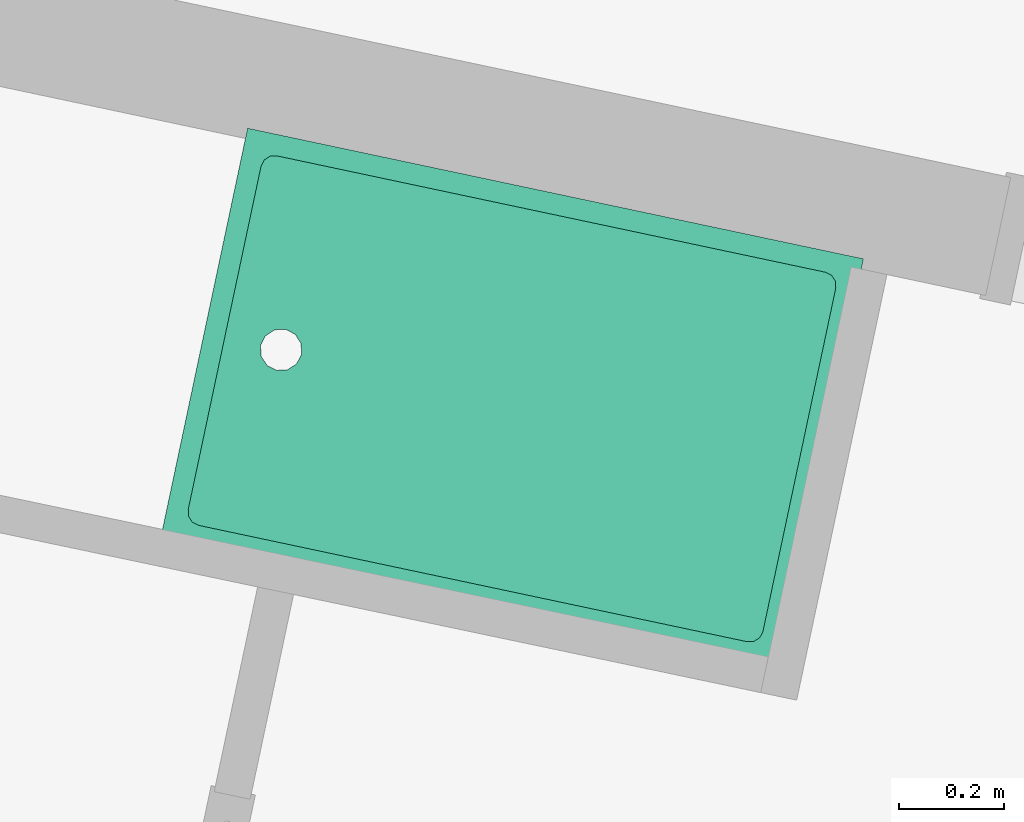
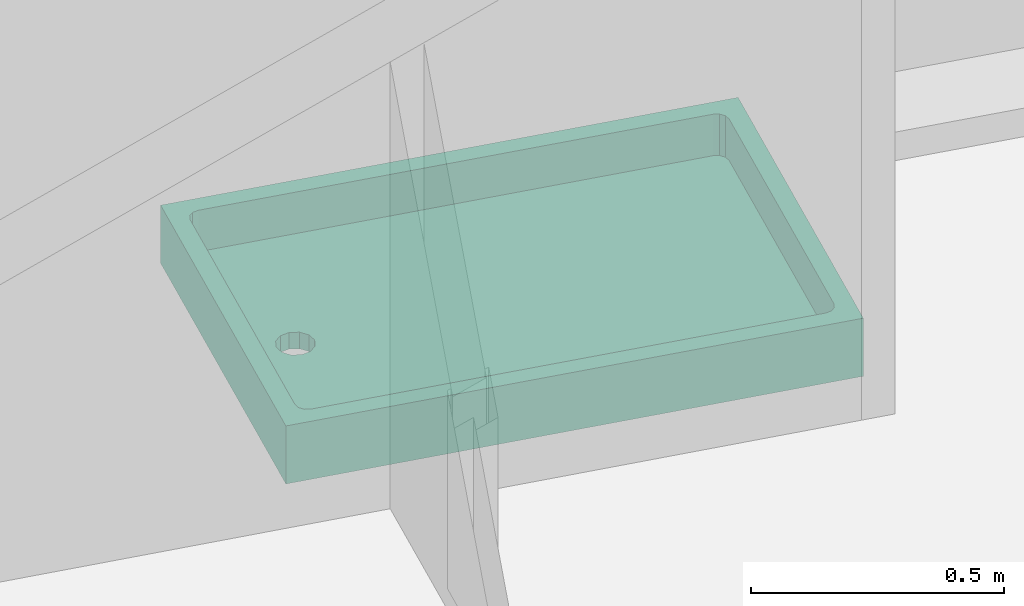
# One storey, part 18 of 20: 1 flow terminal.
"""IFC2X3 building model written with IfcOpenShell, lengths in metres."""

from ifc_helpers import new_model, entity, si_unit, converted_unit, derived_unit, direction, frame, origin, place, context, subcontext, project, spatial, faceted_brep, source, transform, mapped, material, element, save


model = new_model("IFC2X3")

# Units and contexts
model_context = context("Model", 3, precision=1e-05, world=origin(), true_north=direction((6.12303176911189e-17, 1.0)))
body_context = subcontext(model_context, "Body", "Model", "MODEL_VIEW")
ifc_project = project(units=[si_unit("LENGTHUNIT", "METRE"), si_unit("AREAUNIT", "SQUARE_METRE"), si_unit("VOLUMEUNIT", "CUBIC_METRE"), converted_unit("PLANEANGLEUNIT", "DEGREE", entity("IfcRatioMeasure", 0.0174532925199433), si_unit("PLANEANGLEUNIT", "RADIAN"), dimensions=[0, 0, 0, 0, 0, 0, 0]), si_unit("MASSUNIT", "GRAM", prefix="KILO"), derived_unit("MASSDENSITYUNIT", [(si_unit("MASSUNIT", "GRAM", prefix="KILO"), 1), (si_unit("LENGTHUNIT", "METRE"), -3)]), si_unit("TIMEUNIT", "SECOND"), si_unit("FREQUENCYUNIT", "HERTZ"), si_unit("THERMODYNAMICTEMPERATUREUNIT", "DEGREE_CELSIUS"), derived_unit("THERMALTRANSMITTANCEUNIT", [(si_unit("MASSUNIT", "GRAM", prefix="KILO"), 1), (si_unit("THERMODYNAMICTEMPERATUREUNIT", "KELVIN"), -1), (si_unit("TIMEUNIT", "SECOND"), -3)]), derived_unit("VOLUMETRICFLOWRATEUNIT", [(si_unit("LENGTHUNIT", "METRE"), 3), (si_unit("TIMEUNIT", "SECOND"), -1)]), si_unit("ELECTRICCURRENTUNIT", "AMPERE"), si_unit("ELECTRICVOLTAGEUNIT", "VOLT"), si_unit("POWERUNIT", "WATT"), si_unit("FORCEUNIT", "NEWTON", prefix="KILO"), si_unit("ILLUMINANCEUNIT", "LUX"), si_unit("LUMINOUSFLUXUNIT", "LUMEN"), si_unit("LUMINOUSINTENSITYUNIT", "CANDELA"), derived_unit("USERDEFINED", [(si_unit("MASSUNIT", "GRAM", prefix="KILO"), -1), (si_unit("LENGTHUNIT", "METRE"), -2), (si_unit("TIMEUNIT", "SECOND"), 3), (si_unit("LUMINOUSFLUXUNIT", "LUMEN"), 1)]), derived_unit("LINEARVELOCITYUNIT", [(si_unit("LENGTHUNIT", "METRE"), 1), (si_unit("TIMEUNIT", "SECOND"), -1)]), si_unit("PRESSUREUNIT", "PASCAL"), derived_unit("USERDEFINED", [(si_unit("LENGTHUNIT", "METRE"), -2), (si_unit("MASSUNIT", "GRAM", prefix="KILO"), 1), (si_unit("TIMEUNIT", "SECOND"), -2)])], contexts=[model_context])

# Site, building, storey, space
site_placement = place(None, origin())
site = spatial("IfcSite", under=ifc_project, at=site_placement, Name="Default", CompositionType="ELEMENT")
building_placement = place(site_placement, origin())
building = spatial("IfcBuilding", under=site, at=building_placement, CompositionType="ELEMENT")
storey_placement = place(building_placement, frame((0.0, 0.0, -0.0686871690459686)))
storey = spatial("IfcBuildingStorey", under=building, at=storey_placement, Name="RDC", CompositionType="ELEMENT", Elevation=-0.0686871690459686)
space_placement = place(storey_placement, origin())
space = spatial("IfcSpace", under=storey, at=space_placement, Name="629", CompositionType="ELEMENT", InteriorOrExteriorSpace="INTERNAL")

# Flow terminal
ifc_material = material(Name="Blanc - Element de salle de bains")
shared_shape = source(origin(), body_context, "Body", "Brep", [
    faceted_brep([(0.360000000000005, 0.534599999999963, 0.139999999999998), (0.360000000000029, -0.53460000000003, 0.139999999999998), (0.4, -0.600000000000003, 0.139999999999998), (0.4, 0.599999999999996, 0.139999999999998), (0.358003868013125, 0.542049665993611, 0.139999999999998), (0.358298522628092, -0.54095000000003, 0.139999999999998), (0.356597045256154, -0.54730000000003, 0.139999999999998), (0.351948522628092, -0.551948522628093, 0.139999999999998), (0.347300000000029, -0.556597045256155, 0.139999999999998), (0.342049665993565, -0.558003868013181, 0.139999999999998), (0.33460000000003, -0.56000000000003, 0.139999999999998), (-0.334600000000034, -0.56000000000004, 0.139999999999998), (-0.4, -0.600000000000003, 0.139999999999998), (-0.340950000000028, -0.558298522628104, 0.139999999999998), (-0.347300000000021, -0.556597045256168, 0.139999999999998), (-0.351948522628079, -0.55194852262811, 0.139999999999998), (-0.356597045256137, -0.547300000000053, 0.139999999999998), (-0.358003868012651, -0.542049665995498, 0.139999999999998), (-0.360000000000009, -0.534600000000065, 0.139999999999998), (-0.359999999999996, 0.534599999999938, 0.139999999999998), (-0.4, 0.599999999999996, 0.139999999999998), (-0.358298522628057, 0.540949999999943, 0.139999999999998), (-0.356597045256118, 0.547299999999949, 0.139999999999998), (-0.351948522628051, 0.551948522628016, 0.139999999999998), (-0.347299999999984, 0.556597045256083, 0.139999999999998), (-0.342049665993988, 0.558003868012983, 0.139999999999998), (-0.334599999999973, 0.559999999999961, 0.139999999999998), (0.334600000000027, 0.55999999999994, 0.139999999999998), (0.340950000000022, 0.558298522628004, 0.139999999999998), (0.347300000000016, 0.556597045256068, 0.139999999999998), (0.351948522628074, 0.55194852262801, 0.139999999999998), (0.356597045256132, 0.547299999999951, 0.139999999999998), (-0.4, 0.599999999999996, 0.0), (-0.0346410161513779, 0.429999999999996, 0.0), (-0.4, -0.600000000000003, 0.0), (-0.0373205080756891, 0.439999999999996, 0.0), (-0.0400000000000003, 0.449999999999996, 0.0), (-0.0373205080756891, 0.459999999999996, 0.0), (-0.0346410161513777, 0.469999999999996, 0.0), (-0.027320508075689, 0.477320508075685, 0.0), (-0.0200000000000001, 0.484641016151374, 0.0), (-0.0100000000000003, 0.487320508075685, 0.0), (0.0, 0.489999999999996, 0.0), (0.4, 0.599999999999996, 0.0), (0.00999999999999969, 0.487320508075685, 0.0), (0.0199999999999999, 0.484641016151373, 0.0), (0.0273205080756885, 0.477320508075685, 0.0), (0.0346410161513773, 0.469999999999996, 0.0), (0.0373205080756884, 0.459999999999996, 0.0), (0.0399999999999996, 0.449999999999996, 0.0), (0.0373205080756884, 0.439999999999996, 0.0), (0.0346410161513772, 0.429999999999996, 0.0), (0.4, -0.600000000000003, 0.0), (0.0, 0.409999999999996, 0.0), (0.00999999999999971, 0.412679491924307, 0.0), (0.0273205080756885, 0.422679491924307, 0.0), (0.0199999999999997, 0.415358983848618, 0.0), (-0.0273205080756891, 0.422679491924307, 0.0), (-0.0200000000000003, 0.415358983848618, 0.0), (-0.0100000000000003, 0.412679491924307, 0.0), (0.356597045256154, -0.54730000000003, 0.0399999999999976), (0.33460000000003, -0.56000000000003, 0.0399999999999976), (0.34095000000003, -0.558298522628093, 0.0399999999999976), (0.358003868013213, -0.542049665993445, 0.0399999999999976), (0.351948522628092, -0.551948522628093, 0.0399999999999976), (0.36000000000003, -0.534600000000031, 0.0399999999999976), (-0.334600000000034, -0.56000000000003, 0.0399999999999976), (-0.360000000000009, -0.534600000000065, 0.0399999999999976), (0.0, 0.409999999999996, 0.0399999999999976), (0.00999999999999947, 0.412679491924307, 0.0399999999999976), (0.0199999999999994, 0.415358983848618, 0.0399999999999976), (0.360000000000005, 0.534599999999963, 0.0399999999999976), (0.0273205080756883, 0.422679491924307, 0.0399999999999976), (0.0346410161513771, 0.429999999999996, 0.0399999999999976), (0.0375344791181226, 0.440798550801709, 0.0399999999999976), (0.0399999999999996, 0.449999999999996, 0.0399999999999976), (0.334600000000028, 0.559999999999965, 0.0399999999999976), (0.358298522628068, 0.540949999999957, 0.0399999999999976), (0.356597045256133, 0.547299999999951, 0.0399999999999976), (0.342049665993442, 0.558003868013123, 0.0399999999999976), (0.351948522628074, 0.551948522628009, 0.0399999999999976), (0.347300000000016, 0.556597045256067, 0.0399999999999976), (0.0375344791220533, 0.459201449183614, 0.0399999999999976), (0.0346410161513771, 0.469999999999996, 0.0399999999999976), (0.0273205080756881, 0.477320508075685, 0.0399999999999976), (0.0199999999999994, 0.484641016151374, 0.0399999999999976), (0.00999999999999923, 0.487320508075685, 0.0399999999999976), (0.0, 0.489999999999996, 0.0399999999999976), (-0.334599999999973, 0.559999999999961, 0.0399999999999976), (-0.0100000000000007, 0.487320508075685, 0.0399999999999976), (-0.0200000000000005, 0.484641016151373, 0.0399999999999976), (-0.0273205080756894, 0.477320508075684, 0.0399999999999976), (-0.034641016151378, 0.469999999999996, 0.0399999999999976), (-0.0375344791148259, 0.459201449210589, 0.0399999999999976), (-0.0400000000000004, 0.449999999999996, 0.0399999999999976), (-0.359999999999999, 0.534599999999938, 0.0399999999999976), (-0.358003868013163, 0.542049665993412, 0.0399999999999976), (-0.356597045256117, 0.547299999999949, 0.0399999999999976), (-0.340949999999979, 0.558298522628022, 0.0399999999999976), (-0.351948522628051, 0.551948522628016, 0.0399999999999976), (-0.347299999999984, 0.556597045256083, 0.0399999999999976), (-0.0200000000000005, 0.415358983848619, 0.0399999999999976), (-0.0273205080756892, 0.422679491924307, 0.0399999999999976), (-0.034641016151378, 0.429999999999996, 0.0399999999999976), (-0.0375344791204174, 0.44079855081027, 0.0399999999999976), (-0.0100000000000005, 0.412679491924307, 0.0399999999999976), (-0.358298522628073, -0.540950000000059, 0.0399999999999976), (-0.356597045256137, -0.547300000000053, 0.0399999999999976), (-0.351948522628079, -0.55194852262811, 0.0399999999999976), (-0.342049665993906, -0.5580038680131, 0.0399999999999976), (-0.347300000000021, -0.556597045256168, 0.0399999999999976), (0.34730000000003, -0.556597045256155, 0.0399999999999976)], [[[0, 1, 2]], [[2, 3, 0]], [[3, 4, 0]], [[2, 1, 5]], [[2, 5, 6]], [[2, 6, 7]], [[2, 7, 8]], [[2, 8, 9]], [[2, 9, 10]], [[10, 11, 2]], [[12, 2, 11]], [[12, 11, 13]], [[12, 13, 14]], [[12, 14, 15]], [[12, 15, 16]], [[12, 16, 17]], [[12, 17, 18]], [[19, 12, 18]], [[12, 19, 20]], [[20, 19, 21]], [[20, 21, 22]], [[20, 22, 23]], [[20, 23, 24]], [[20, 24, 25]], [[20, 25, 26]], [[26, 27, 3]], [[3, 20, 26]], [[3, 27, 28]], [[3, 28, 29]], [[3, 29, 30]], [[3, 30, 31]], [[3, 31, 4]], [[32, 33, 34]], [[32, 35, 33]], [[32, 36, 35]], [[32, 37, 36]], [[32, 38, 37]], [[32, 39, 38]], [[32, 40, 39]], [[32, 41, 40]], [[32, 42, 41]], [[32, 43, 42]], [[43, 44, 42]], [[43, 45, 44]], [[43, 46, 45]], [[43, 47, 46]], [[43, 48, 47]], [[43, 49, 48]], [[43, 50, 49]], [[43, 51, 50]], [[52, 51, 43]], [[53, 52, 34]], [[52, 53, 54]], [[52, 55, 51]], [[52, 56, 55]], [[52, 54, 56]], [[34, 33, 57]], [[34, 57, 58]], [[34, 58, 59]], [[34, 59, 53]], [[52, 2, 12, 34]], [[34, 12, 20, 32]], [[32, 20, 3, 43]], [[43, 3, 2, 52]], [[60, 61, 62]], [[61, 60, 63]], [[62, 64, 60]], [[61, 63, 65]], [[61, 65, 66]], [[67, 66, 65]], [[65, 68, 67]], [[65, 69, 68]], [[65, 70, 69]], [[65, 71, 70]], [[71, 72, 70]], [[71, 73, 72]], [[71, 74, 73]], [[71, 75, 74]], [[75, 71, 76]], [[76, 71, 77]], [[76, 77, 78]], [[78, 79, 76]], [[79, 78, 80]], [[79, 80, 81]], [[76, 82, 75]], [[76, 83, 82]], [[76, 84, 83]], [[76, 85, 84]], [[76, 86, 85]], [[76, 87, 86]], [[87, 76, 88]], [[88, 89, 87]], [[88, 90, 89]], [[88, 91, 90]], [[88, 92, 91]], [[88, 93, 92]], [[88, 94, 93]], [[88, 95, 94]], [[88, 96, 95]], [[88, 97, 96]], [[97, 88, 98]], [[98, 99, 97]], [[98, 100, 99]], [[101, 95, 67]], [[95, 101, 102]], [[95, 102, 103]], [[95, 103, 104]], [[95, 104, 94]], [[67, 68, 105]], [[67, 105, 101]], [[66, 67, 106]], [[66, 106, 107]], [[66, 107, 108]], [[108, 109, 66]], [[108, 110, 109]], [[62, 111, 64]], [[29, 28, 27, 76, 79, 81]], [[30, 29, 81, 80, 78, 31]], [[77, 71, 0, 4, 31, 78]], [[1, 0, 71, 65]], [[6, 5, 1, 65, 63, 60]], [[7, 6, 60, 64, 111, 8]], [[62, 61, 10, 9, 8, 111]], [[11, 10, 61, 66]], [[14, 13, 11, 66, 109, 110]], [[15, 14, 110, 108, 107, 16]], [[106, 67, 18, 17, 16, 107]], [[19, 18, 67, 95]], [[22, 21, 19, 95, 96, 97]], [[23, 22, 97, 99, 100, 24]], [[98, 88, 26, 25, 24, 100]], [[27, 26, 88, 76]], [[92, 93, 94, 36, 37, 38]], [[85, 45, 46, 47, 83, 84]], [[39, 40, 90, 91, 92, 38]], [[90, 40, 41, 42, 87, 89]], [[83, 47, 48, 49, 75, 82]], [[86, 87, 42, 44, 45, 85]], [[73, 74, 75, 49, 50, 51]], [[101, 58, 57, 33, 103, 102]], [[55, 56, 70, 72, 73, 51]], [[69, 70, 56, 54, 53, 68]], [[103, 33, 35, 36, 94, 104]], [[105, 68, 53, 59, 58, 101]]]),
])
flow_terminal_placement = place(space_placement, frame((-18.1572349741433, 82.5249196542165, 0.0686871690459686), z_axis=(0.0, 0.0, 1.0), x_axis=(0.207484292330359, 0.978238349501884, 0.0)))
element("IfcFlowTerminal", 1, at=flow_terminal_placement, inside=space, material=ifc_material, Name="FR_Bac à douches - Vidange Axée:80 x 120", ObjectType="FR_Bac à douches - Vidange Axée:80 x 120", context=body_context, shape_type="MappedRepresentation", body=[
    mapped(shared_shape, transform((0.0, 0.0, 0.0), scale=1.0)),
])

save(model, "model.ifc")
